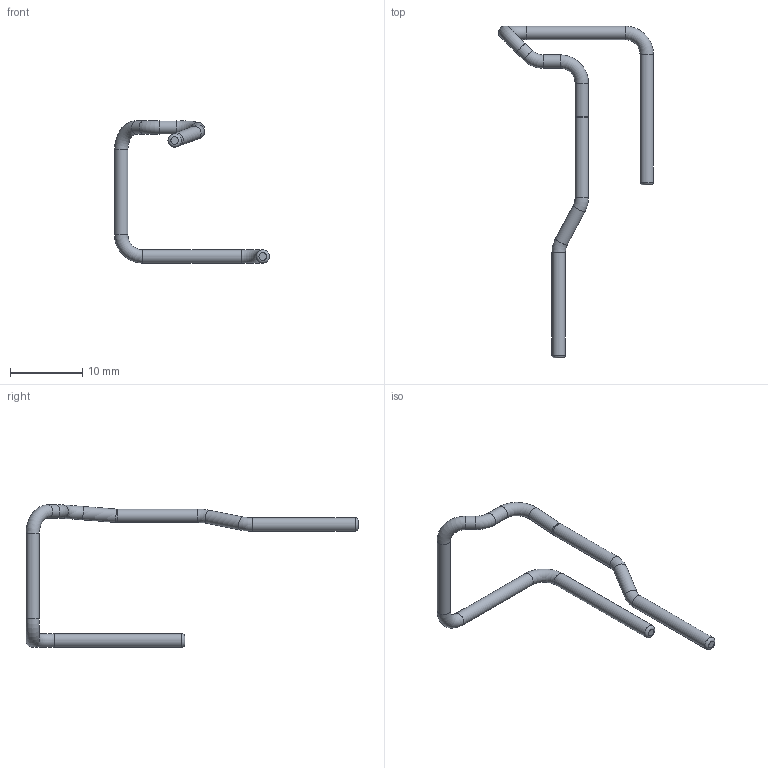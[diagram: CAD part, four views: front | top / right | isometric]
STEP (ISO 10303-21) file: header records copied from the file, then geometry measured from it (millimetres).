
FILE_DESCRIPTION(('Open CASCADE Model'),'2;1');
FILE_NAME('CUT_ROUTE_02_RADIAL_CLEARANCE_0p4','2026-09-15T14:21:32',( 'Author'),('Open CASCADE'),'Open CASCADE STEP processor 7.9', 'build123d','Unknown');
FILE_SCHEMA(('AUTOMOTIVE_DESIGN { 1 0 10303 214 1 1 1 1 }'));
Length unit declared in the file: millimetre
Products named in the file (1): CUT_ROUTE_02_RADIAL_CLEARANCE_0p4
Bounding box: 21.45 x 45.98 x 19.71 mm (x, y, z)
Volume: 288.3 mm3; surface area: 627.5 mm2
Topology: 1 solids, 1 shells, 21 faces, 39 edges, 20 vertices
Faces by surface type: torus 10, cylinder 9, plane 2
Full cylindrical faces by diameter (mm): 1.85 x9
Entity records: 1003 total; most frequent: CARTESIAN_POINT 192, DIRECTION 158, ORIENTED_EDGE 78, PCURVE 78, DEFINITIONAL_REPRESENTATION 78, AXIS2_PLACEMENT_3D 52, LINE 52, VECTOR 52
